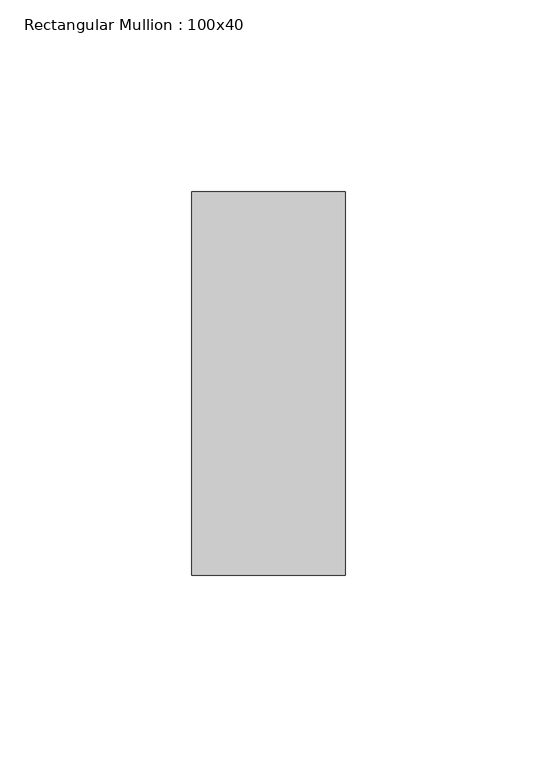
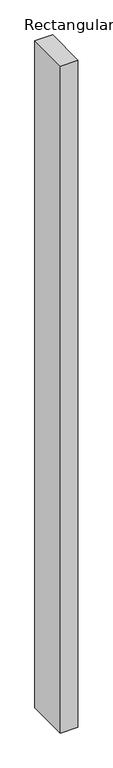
"""IFC4 building model written with IfcOpenShell, lengths in millimetres: member geometry, Rectangular Mullion : 100x40."""

from ifc_helpers import new_model, si_unit, frame, origin, place, context, project, spatial, polyline, outline, extrude, source, transform, mapped, element, save


def rectangular_mullion_100x40_36199055(model_context):
    return source(origin(), model_context, "Body", "SweptSolid", [
        extrude(outline(polyline([(0.0, 50.0), (0.0, -50.0), (-40.0, -50.0), (-40.0, 50.0), (0.0, 50.0)])), frame((0.0, 0.0, -1601.0), z_axis=(0.0, 0.0, 1.0), x_axis=(1.0, 0.0, 0.0)), (0.0, 0.0, 1.0), 1601.0),
    ])


if __name__ == "__main__":
    model = new_model("IFC4")
    model_context = context("Model", 3, world=origin())
    ifc_project = project(units=[si_unit("LENGTHUNIT", "METRE", prefix="MILLI")], contexts=[model_context])
    site = spatial("IfcSite", under=ifc_project)
    building = spatial("IfcBuilding", under=site)
    placement = place(None, origin())
    rectangular_mullion_100x40_shape = rectangular_mullion_100x40_36199055(model_context)
    element("IfcMember", 1, ObjectType="Rectangular Mullion : 100x40", at=placement, inside=building, context=model_context, shape_type="MappedRepresentation", body=[
        mapped(rectangular_mullion_100x40_shape, transform((0.0, 0.0, 0.0), x_axis=(1.0, 0.0, 0.0), y_axis=(0.0, 1.0, 0.0), z_axis=(0.0, 0.0, 1.0))),
    ])
    save(model, "model.ifc")
